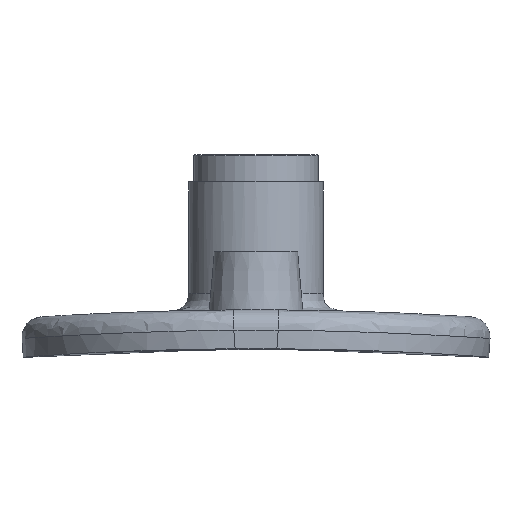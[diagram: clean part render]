
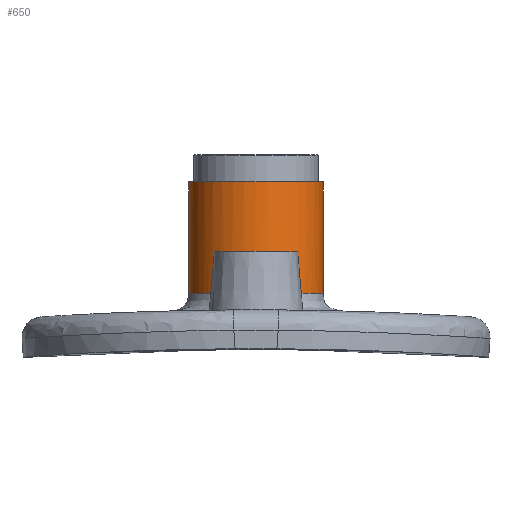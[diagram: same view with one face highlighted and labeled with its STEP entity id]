
A CAD part, top view. The second image highlights one B-rep face of the part: STEP entity #650.
In plain terms, the highlighted cylindrical face has radius 12.11 mm (diameter 24.22 mm), a full revolution.
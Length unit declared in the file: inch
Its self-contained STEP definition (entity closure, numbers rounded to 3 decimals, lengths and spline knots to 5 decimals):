
#29=B_SPLINE_CURVE_WITH_KNOTS('',3,(#1148,#1149,#1150,#1151,#1152,#1153,
#1154),.UNSPECIFIED.,.F.,.F.,(4,1,1,1,4),(-7.29897,-6.77762,
-6.25626,-5.90869,-5.47422),.UNSPECIFIED.);
#30=B_SPLINE_CURVE_WITH_KNOTS('',3,(#1155,#1156,#1157,#1158,#1159,#1160,
#1161,#1162,#1163,#1164,#1165,#1166,#1167,#1168),.UNSPECIFIED.,.F.,.F.,
(4,1,1,1,1,1,1,1,1,1,1,4),(-5.47422,-5.21355,-4.86598,
-4.17084,-3.4757,-3.12813,-2.43299,
-2.08542,-1.56407,-1.04271,-0.52136,
0.),.UNSPECIFIED.);
#72=LINE('',#1250,#100);
#73=LINE('',#1252,#101);
#100=VECTOR('',#823,0.47678);
#101=VECTOR('',#824,0.47678);
#127=CYLINDRICAL_SURFACE('',#719,0.47678);
#151=FACE_OUTER_BOUND('',#197,.T.);
#197=EDGE_LOOP('',(#477,#478,#479,#480,#481,#482,#483,#484));
#244=CIRCLE('',#720,0.47678);
#245=CIRCLE('',#721,0.47678);
#286=VERTEX_POINT('',#1127);
#288=VERTEX_POINT('',#1147);
#297=VERTEX_POINT('',#1246);
#298=VERTEX_POINT('',#1247);
#299=VERTEX_POINT('',#1251);
#355=EDGE_CURVE('',#286,#288,#29,.T.);
#356=EDGE_CURVE('',#288,#286,#30,.T.);
#366=EDGE_CURVE('',#297,#298,#244,.T.);
#367=EDGE_CURVE('',#298,#297,#245,.T.);
#368=EDGE_CURVE('',#298,#288,#72,.T.);
#369=EDGE_CURVE('',#299,#288,#73,.T.);
#477=ORIENTED_EDGE('',*,*,#366,.F.);
#478=ORIENTED_EDGE('',*,*,#367,.F.);
#479=ORIENTED_EDGE('',*,*,#368,.T.);
#480=ORIENTED_EDGE('',*,*,#355,.F.);
#481=ORIENTED_EDGE('',*,*,#356,.F.);
#482=ORIENTED_EDGE('',*,*,#369,.F.);
#483=ORIENTED_EDGE('',*,*,#369,.T.);
#484=ORIENTED_EDGE('',*,*,#368,.F.);
#650=ADVANCED_FACE('',(#151),#127,.T.);
#719=AXIS2_PLACEMENT_3D('',#1245,#817,#818);
#720=AXIS2_PLACEMENT_3D('',#1248,#819,#820);
#721=AXIS2_PLACEMENT_3D('',#1249,#821,#822);
#817=DIRECTION('center_axis',(0.,1.,0.));
#818=DIRECTION('ref_axis',(0.,0.,1.));
#819=DIRECTION('center_axis',(0.,1.,0.));
#820=DIRECTION('ref_axis',(1.,0.,0.));
#821=DIRECTION('center_axis',(0.,1.,0.));
#822=DIRECTION('ref_axis',(1.,0.,0.));
#823=DIRECTION('',(0.,-1.,0.));
#824=DIRECTION('',(0.,1.,0.));
#1127=CARTESIAN_POINT('',(-0.47678,24.28528,0.));
#1147=CARTESIAN_POINT('',(0.,24.29273,-0.47678));
#1148=CARTESIAN_POINT('Ctrl Pts',(-0.47678,24.28528,0.));
#1149=CARTESIAN_POINT('Ctrl Pts',(-0.47678,24.28528,-0.07133));
#1150=CARTESIAN_POINT('Ctrl Pts',(-0.44426,24.28636,-0.21402));
#1151=CARTESIAN_POINT('Ctrl Pts',(-0.32259,24.28953,-0.36623));
#1152=CARTESIAN_POINT('Ctrl Pts',(-0.16639,24.29209,-0.45665));
#1153=CARTESIAN_POINT('Ctrl Pts',(-0.05943,24.2927,
-0.4765));
#1154=CARTESIAN_POINT('Ctrl Pts',(0.,24.29272,
-0.47661));
#1155=CARTESIAN_POINT('Ctrl Pts',(0.,24.29272,
-0.47661));
#1156=CARTESIAN_POINT('Ctrl Pts',(0.03566,24.29272,-0.47668));
#1157=CARTESIAN_POINT('Ctrl Pts',(0.11885,24.29247,-0.46766));
#1158=CARTESIAN_POINT('Ctrl Pts',(0.28687,24.29046,-0.40171));
#1159=CARTESIAN_POINT('Ctrl Pts',(0.45621,24.28606,-0.21971));
#1160=CARTESIAN_POINT('Ctrl Pts',(0.49294,24.28474,0.02618));
#1161=CARTESIAN_POINT('Ctrl Pts',(0.422,24.287,0.25618));
#1162=CARTESIAN_POINT('Ctrl Pts',(0.28691,24.29044,0.40165));
#1163=CARTESIAN_POINT('Ctrl Pts',(0.08523,24.29285,0.48061));
#1164=CARTESIAN_POINT('Ctrl Pts',(-0.10969,24.29285,0.48071));
#1165=CARTESIAN_POINT('Ctrl Pts',(-0.30746,24.28995,0.38545));
#1166=CARTESIAN_POINT('Ctrl Pts',(-0.44423,24.28635,0.21394));
#1167=CARTESIAN_POINT('Ctrl Pts',(-0.47678,24.28528,0.07133));
#1168=CARTESIAN_POINT('Ctrl Pts',(-0.47678,24.28528,0.));
#1245=CARTESIAN_POINT('Origin',(0.,24.48513,0.));
#1246=CARTESIAN_POINT('',(0.,25.07853,0.47678));
#1247=CARTESIAN_POINT('',(0.,25.07853,-0.47678));
#1248=CARTESIAN_POINT('Origin',(0.,25.07853,0.));
#1249=CARTESIAN_POINT('Origin',(0.,25.07853,0.));
#1250=CARTESIAN_POINT('',(0.,24.48513,-0.47678));
#1251=CARTESIAN_POINT('',(0.,24.28501,-0.47678));
#1252=CARTESIAN_POINT('',(0.,24.48513,-0.47678));
